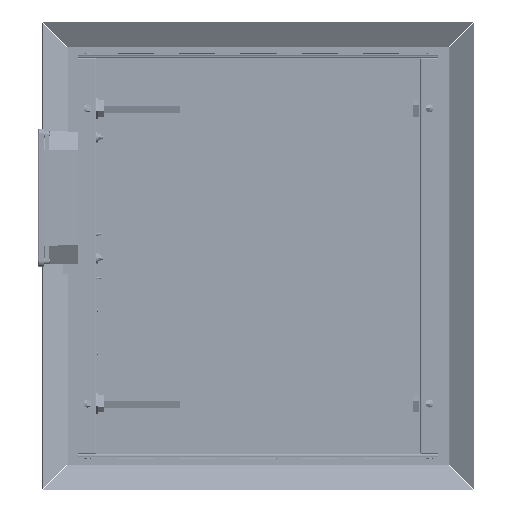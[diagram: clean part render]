
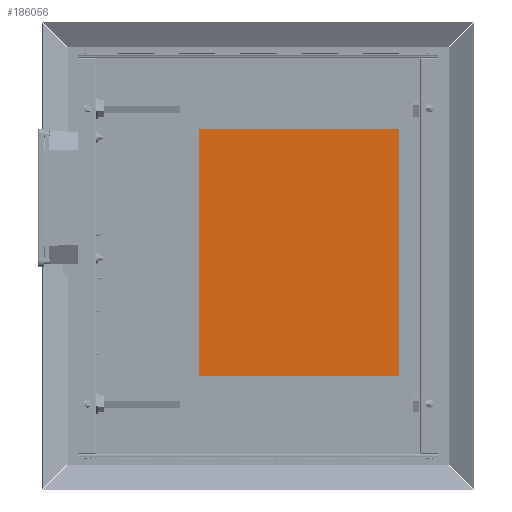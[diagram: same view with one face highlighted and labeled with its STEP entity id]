
A CAD part, front view. The second image highlights one B-rep face of the part: STEP entity #186056.
In plain terms, the highlighted planar face has unit normal (0, -1, 0).
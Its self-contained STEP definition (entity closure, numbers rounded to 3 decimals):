
#8169=PLANE('',#197041);
#16333=FACE_OUTER_BOUND('',#26533,.T.);
#26533=EDGE_LOOP('',(#138033,#138034,#138035,#138036));
#45265=LINE('',#284180,#64338);
#45266=LINE('',#284182,#64339);
#45267=LINE('',#284184,#64340);
#45268=LINE('',#284185,#64341);
#64338=VECTOR('',#221625,10.);
#64339=VECTOR('',#221626,10.);
#64340=VECTOR('',#221627,10.);
#64341=VECTOR('',#221628,10.);
#83025=VERTEX_POINT('',#284178);
#83026=VERTEX_POINT('',#284179);
#83027=VERTEX_POINT('',#284181);
#83028=VERTEX_POINT('',#284183);
#102825=EDGE_CURVE('',#83025,#83026,#45265,.T.);
#102826=EDGE_CURVE('',#83027,#83026,#45266,.T.);
#102827=EDGE_CURVE('',#83028,#83027,#45267,.T.);
#102828=EDGE_CURVE('',#83025,#83028,#45268,.T.);
#138033=ORIENTED_EDGE('',*,*,#102825,.T.);
#138034=ORIENTED_EDGE('',*,*,#102826,.F.);
#138035=ORIENTED_EDGE('',*,*,#102827,.F.);
#138036=ORIENTED_EDGE('',*,*,#102828,.F.);
#186056=ADVANCED_FACE('',(#16333),#8169,.F.);
#197041=AXIS2_PLACEMENT_3D('',#284177,#221623,#221624);
#221623=DIRECTION('center_axis',(0.,1.,0.));
#221624=DIRECTION('ref_axis',(0.,0.,
1.));
#221625=DIRECTION('',(0.,0.,-1.));
#221626=DIRECTION('',(-1.,0.,0.));
#221627=DIRECTION('',(0.,0.,-1.));
#221628=DIRECTION('',(1.,0.,0.));
#284177=CARTESIAN_POINT('Origin',(-193.9,-330.5,257.));
#284178=CARTESIAN_POINT('',(-332.55,-330.5,428.318));
#284179=CARTESIAN_POINT('',(-332.55,-330.5,85.682));
#284180=CARTESIAN_POINT('',(-332.55,-330.5,257.));
#284181=CARTESIAN_POINT('',(-55.25,-330.5,85.682));
#284182=CARTESIAN_POINT('',(-193.9,-330.5,85.682));
#284183=CARTESIAN_POINT('',(-55.25,-330.5,428.318));
#284184=CARTESIAN_POINT('',(-55.25,-330.5,257.));
#284185=CARTESIAN_POINT('',(-193.9,-330.5,428.318));
